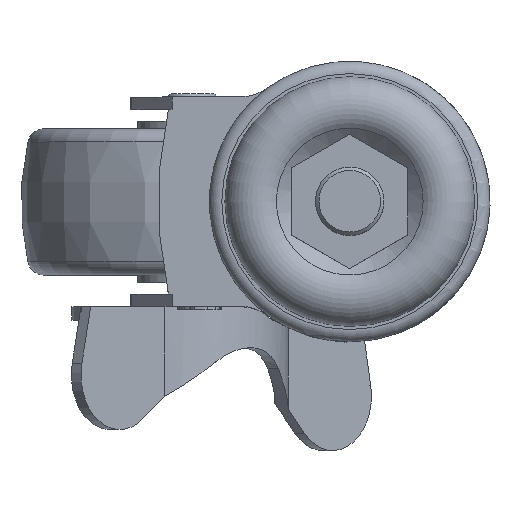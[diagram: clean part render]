
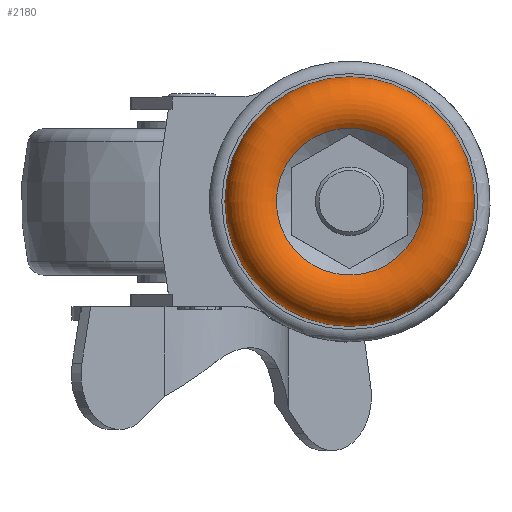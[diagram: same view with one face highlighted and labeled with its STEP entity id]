
A CAD part, top view. The second image highlights one B-rep face of the part: STEP entity #2180.
In plain terms, the highlighted toroidal (fillet/blend) face has major radius 13.75 mm and minor radius 4.5 mm.
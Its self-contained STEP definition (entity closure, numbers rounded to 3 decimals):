
#88=TOROIDAL_SURFACE('',#8754,13.75,4.5);
#2180=ADVANCED_FACE('',(#2761,#2762),#88,.T.);
#2519=CIRCLE('',#8751,18.25);
#2520=CIRCLE('',#8753,10.727);
#2761=FACE_BOUND('',#3325,.T.);
#2762=FACE_BOUND('',#3326,.T.);
#3325=EDGE_LOOP('',(#5661));
#3326=EDGE_LOOP('',(#5662));
#5661=ORIENTED_EDGE('',*,*,#7680,.T.);
#5662=ORIENTED_EDGE('',*,*,#7681,.F.);
#6504=VERTEX_POINT('',#20906);
#6505=VERTEX_POINT('',#20909);
#7680=EDGE_CURVE('',#6504,#6504,#2519,.T.);
#7681=EDGE_CURVE('',#6505,#6505,#2520,.T.);
#8751=AXIS2_PLACEMENT_3D('',#20905,#10656,#10657);
#8753=AXIS2_PLACEMENT_3D('',#20908,#10660,#10661);
#8754=AXIS2_PLACEMENT_3D('',#20910,#10662,#10663);
#10656=DIRECTION('',(0.,0.,1.));
#10657=DIRECTION('',(0.,-1.,0.));
#10660=DIRECTION('',(0.,0.,1.));
#10661=DIRECTION('',(0.,-1.,0.));
#10662=DIRECTION('',(0.,0.,1.));
#10663=DIRECTION('',(0.,-1.,0.));
#20905=CARTESIAN_POINT('',(0.,0.,-25.));
#20906=CARTESIAN_POINT('',(0.,-18.25,-25.));
#20908=CARTESIAN_POINT('',(0.,0.,-21.667));
#20909=CARTESIAN_POINT('',(0.,-10.727,-21.667));
#20910=CARTESIAN_POINT('',(0.,0.,-25.));
